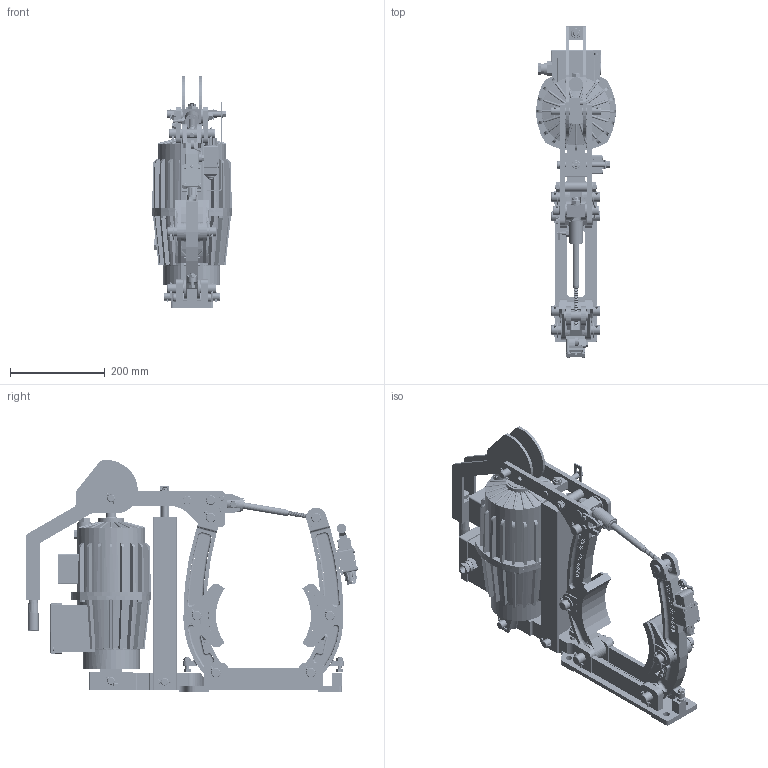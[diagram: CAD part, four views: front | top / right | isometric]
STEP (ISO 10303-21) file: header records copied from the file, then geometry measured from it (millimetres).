
FILE_DESCRIPTION((''),'2;1');
FILE_NAME('4459_204_504_E00001','2018-01-31T',('VORO'),(''),'CREO PARAMETRIC BY PTC INC, 2017170','CREO PARAMETRIC BY PTC INC, 2017170','');
FILE_SCHEMA(('CONFIG_CONTROL_DESIGN'));
Products named in the file (1): 4459_204_504_E00001
Bounding box: 168.07 x 699.03 x 487.49 mm (x, y, z)
Surface area: 1418275.9 mm2 (no closed solid volume)
Topology: 0 solids, 4639 shells, 5113 faces, 32483 edges, 31487 vertices
Faces by surface type: plane 2469, cylinder 1808, cone 513, torus 248, bspline 67, sphere 8
Entity records: 526625 total; most frequent: CARTESIAN_POINT 141308, PRESENTATION_STYLE_ASSIGNMENT 42219, DIRECTION 37569, STYLED_ITEM 37106, ORIENTED_EDGE 33462, CURVE_STYLE 32467, EDGE_CURVE 32467, VERTEX_POINT 31488
